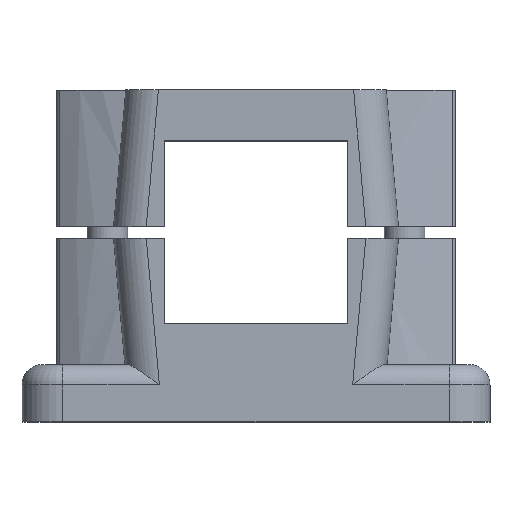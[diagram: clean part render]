
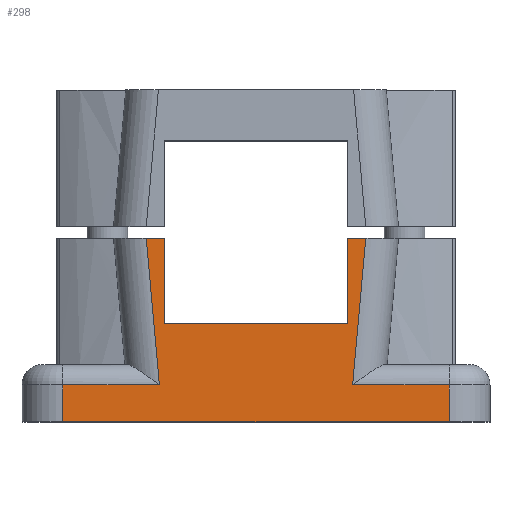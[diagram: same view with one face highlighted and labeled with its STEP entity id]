
A CAD part, top view. The second image highlights one B-rep face of the part: STEP entity #298.
In plain terms, the highlighted planar face has unit normal (0, 0, 1).
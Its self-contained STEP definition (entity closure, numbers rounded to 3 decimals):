
#298 = ADVANCED_FACE( '', ( #805 ), #806, .T. );
#805 = FACE_OUTER_BOUND( '', #1325, .T. );
#806 = PLANE( '', #1326 );
#1325 = EDGE_LOOP( '', ( #3122, #3123, #3124, #3125, #3126, #3127, #3128, #3129, #3130, #3131, #3132, #3133 ) );
#1326 = AXIS2_PLACEMENT_3D( '', #3134, #3135, #3136 );
#3122 = ORIENTED_EDGE( '', *, *, #3840, .T. );
#3123 = ORIENTED_EDGE( '', *, *, #3467, .T. );
#3124 = ORIENTED_EDGE( '', *, *, #3648, .T. );
#3125 = ORIENTED_EDGE( '', *, *, #3838, .F. );
#3126 = ORIENTED_EDGE( '', *, *, #3836, .T. );
#3127 = ORIENTED_EDGE( '', *, *, #3435, .T. );
#3128 = ORIENTED_EDGE( '', *, *, #3788, .F. );
#3129 = ORIENTED_EDGE( '', *, *, #3424, .F. );
#3130 = ORIENTED_EDGE( '', *, *, #3260, .T. );
#3131 = ORIENTED_EDGE( '', *, *, #3839, .T. );
#3132 = ORIENTED_EDGE( '', *, *, #3638, .T. );
#3133 = ORIENTED_EDGE( '', *, *, #3841, .T. );
#3134 = CARTESIAN_POINT( '', ( 0., 0., 38. ) );
#3135 = DIRECTION( '', ( 0., 0., 1. ) );
#3136 = DIRECTION( '', ( 1., 0., 0. ) );
#3260 = EDGE_CURVE( '', #3871, #3869, #3872, .T. );
#3424 = EDGE_CURVE( '', #3871, #4164, #4165, .T. );
#3435 = EDGE_CURVE( '', #4177, #4180, #4182, .T. );
#3467 = EDGE_CURVE( '', #4240, #4238, #4241, .T. );
#3638 = EDGE_CURVE( '', #4531, #4529, #4532, .T. );
#3648 = EDGE_CURVE( '', #4238, #4550, #4551, .T. );
#3788 = EDGE_CURVE( '', #4164, #4180, #4790, .T. );
#3836 = EDGE_CURVE( '', #4840, #4177, #4841, .T. );
#3838 = EDGE_CURVE( '', #4840, #4550, #4843, .T. );
#3839 = EDGE_CURVE( '', #3869, #4531, #4844, .T. );
#3840 = EDGE_CURVE( '', #4845, #4240, #4846, .T. );
#3841 = EDGE_CURVE( '', #4529, #4845, #4847, .T. );
#3869 = VERTEX_POINT( '', #4922 );
#3871 = VERTEX_POINT( '', #4945 );
#3872 = LINE( '', #4946, #4947 );
#4164 = VERTEX_POINT( '', #5331 );
#4165 = LINE( '', #5332, #5333 );
#4177 = VERTEX_POINT( '', #5346 );
#4180 = VERTEX_POINT( '', #5349 );
#4182 = LINE( '', #5351, #5352 );
#4238 = VERTEX_POINT( '', #5424 );
#4240 = VERTEX_POINT( '', #5427 );
#4241 = LINE( '', #5428, #5429 );
#4529 = VERTEX_POINT( '', #5836 );
#4531 = VERTEX_POINT( '', #5839 );
#4532 = LINE( '', #5840, #5841 );
#4550 = VERTEX_POINT( '', #5862 );
#4551 = LINE( '', #5863, #5864 );
#4790 = LINE( '', #6219, #6220 );
#4840 = VERTEX_POINT( '', #6310 );
#4841 = LINE( '', #6311, #6312 );
#4843 = LINE( '', #6335, #6336 );
#4844 = LINE( '', #6337, #6338 );
#4845 = VERTEX_POINT( '', #6339 );
#4846 = LINE( '', #6340, #6341 );
#4847 = LINE( '', #6342, #6343 );
#4922 = CARTESIAN_POINT( '', ( 23.749, -37.5, 38. ) );
#4945 = CARTESIAN_POINT( '', ( 47.5, -37.5, 38. ) );
#4946 = CARTESIAN_POINT( '', ( 47.5, -37.5, 38. ) );
#4947 = VECTOR( '', #6369, 1000. );
#5331 = CARTESIAN_POINT( '', ( 47.5, -46.5, 38. ) );
#5332 = CARTESIAN_POINT( '', ( 47.5, -37.5, 38. ) );
#5333 = VECTOR( '', #6675, 1000. );
#5346 = CARTESIAN_POINT( '', ( -47.5, -37.5, 38. ) );
#5349 = CARTESIAN_POINT( '', ( -47.5, -46.5, 38. ) );
#5351 = CARTESIAN_POINT( '', ( -47.5, -37.5, 38. ) );
#5352 = VECTOR( '', #6704, 1000. );
#5424 = CARTESIAN_POINT( '', ( -22.5, -1.5, 38. ) );
#5427 = CARTESIAN_POINT( '', ( -22.5, -22.5, 38. ) );
#5428 = CARTESIAN_POINT( '', ( -22.5, 0., 38. ) );
#5429 = VECTOR( '', #6764, 1000. );
#5836 = CARTESIAN_POINT( '', ( 22.5, -1.5, 38. ) );
#5839 = CARTESIAN_POINT( '', ( 26.973, -1.5, 38. ) );
#5840 = CARTESIAN_POINT( '', ( 0., -1.5, 38. ) );
#5841 = VECTOR( '', #7035, 1000. );
#5862 = CARTESIAN_POINT( '', ( -26.973, -1.5, 38. ) );
#5863 = CARTESIAN_POINT( '', ( 0., -1.5, 38. ) );
#5864 = VECTOR( '', #7057, 1000. );
#6219 = CARTESIAN_POINT( '', ( 47.5, -46.5, 38. ) );
#6220 = VECTOR( '', #7243, 1000. );
#6310 = CARTESIAN_POINT( '', ( -23.749, -37.5, 38. ) );
#6311 = CARTESIAN_POINT( '', ( 47.5, -37.5, 38. ) );
#6312 = VECTOR( '', #7305, 1000. );
#6335 = CARTESIAN_POINT( '', ( -23.693, -38.131, 38. ) );
#6336 = VECTOR( '', #7306, 1000. );
#6337 = CARTESIAN_POINT( '', ( 23.693, -38.131, 38. ) );
#6338 = VECTOR( '', #7307, 1000. );
#6339 = CARTESIAN_POINT( '', ( 22.5, -22.5, 38. ) );
#6340 = CARTESIAN_POINT( '', ( 0., -22.5, 38. ) );
#6341 = VECTOR( '', #7308, 1000. );
#6342 = CARTESIAN_POINT( '', ( 22.5, 0., 38. ) );
#6343 = VECTOR( '', #7309, 1000. );
#6369 = DIRECTION( '', ( -1., 0., 0. ) );
#6675 = DIRECTION( '', ( 0., -1., 0. ) );
#6704 = DIRECTION( '', ( 0., -1., 0. ) );
#6764 = DIRECTION( '', ( 0., 1., 0. ) );
#7035 = DIRECTION( '', ( -1., 0., 0. ) );
#7057 = DIRECTION( '', ( -1., 0., 0. ) );
#7243 = DIRECTION( '', ( -1., 0., 0. ) );
#7305 = DIRECTION( '', ( -1., 0., 0. ) );
#7306 = DIRECTION( '', ( -0.089, 0.996, 0. ) );
#7307 = DIRECTION( '', ( 0.089, 0.996, 0. ) );
#7308 = DIRECTION( '', ( -1., 0., 0. ) );
#7309 = DIRECTION( '', ( 0., -1., 0. ) );
